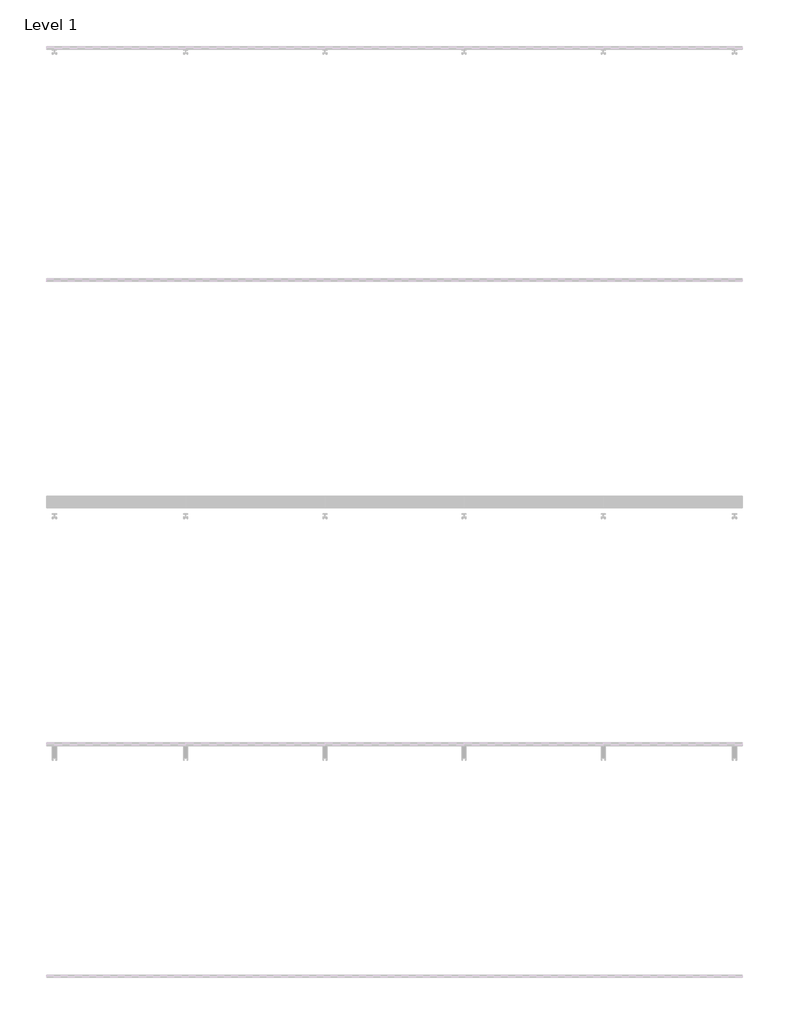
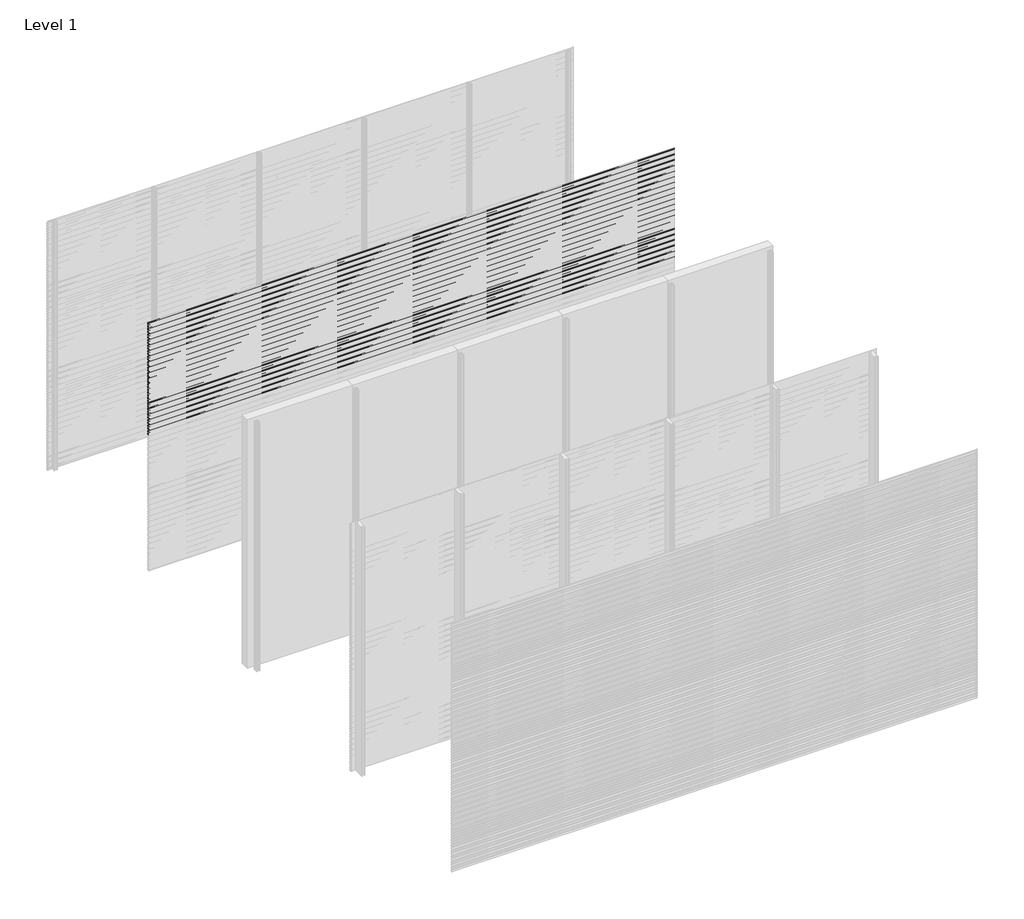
# One storey, part 18 of 77: 72 proxies.
"""IFC4 building model written with IfcOpenShell, lengths in millimetres."""

from ifc_helpers import new_model, si_unit, frame, origin, place, context, project, spatial, polyline, outline, extrude, element, save

model = new_model("IFC4")

# Units and contexts
model_context = context("Model", 3, world=origin())
ifc_project = project(units=[si_unit("LENGTHUNIT", "METRE", prefix="MILLI")], contexts=[model_context])

# Site, building, storey
site = spatial("IfcSite", under=ifc_project)
building = spatial("IfcBuilding", under=site)
storey = spatial("IfcBuildingStorey", under=building, Name="Level 1", Elevation=0.0)

# Proxies
placement = place(None, origin())
element("IfcBuildingElementProxy", 1, Name="Wall Sweeps", at=placement, inside=storey, context=model_context, shape_type="SweptSolid", body=[
    extrude(outline(polyline([(-43978.6, 2972.5359887), (-43998.0, 2983.7366691), (-43998.0, 2997.0), (-43997.0, 2997.0), (-43997.0, 2984.3191057), (-43977.6, 2973.1185105), (-43977.6, 2959.5185105), (-43978.6, 2961.0953129), (-43978.6, 2966.9032062), (-43995.9773817, 2958.8), (-43996.4, 2959.7063078), (-43978.6, 2968.0065841), (-43978.6, 2972.5359887)])), frame((0.0, 0.0, 0.0), z_axis=(1.0, 0.0, 0.0), x_axis=(0.0, 1.0, 0.0)), (0.0, 0.0, 1.0), 6000.0),
])
element("IfcBuildingElementProxy", 2, Name="Wall Sweeps", at=placement, inside=storey, context=model_context, shape_type="SweptSolid", body=[
    extrude(outline(polyline([(-43978.6, 2939.2359887), (-43998.0, 2950.4366691), (-43998.0, 2963.7), (-43997.0, 2963.7), (-43997.0, 2951.0191057), (-43977.6, 2939.8185105), (-43977.6, 2926.2185105), (-43978.6, 2927.7953129), (-43978.6, 2933.6032062), (-43995.9773817, 2925.5), (-43996.4, 2926.4063078), (-43978.6, 2934.7065841), (-43978.6, 2939.2359887)])), frame((0.0, 0.0, 0.0), z_axis=(1.0, 0.0, 0.0), x_axis=(0.0, 1.0, 0.0)), (0.0, 0.0, 1.0), 6000.0),
])
element("IfcBuildingElementProxy", 3, Name="Wall Sweeps", at=placement, inside=storey, context=model_context, shape_type="SweptSolid", body=[
    extrude(outline(polyline([(-43978.6, 2905.9359887), (-43998.0, 2917.1366691), (-43998.0, 2930.4), (-43997.0, 2930.4), (-43997.0, 2917.7191057), (-43977.6, 2906.5185105), (-43977.6, 2892.9185105), (-43978.6, 2894.4953129), (-43978.6, 2900.3032062), (-43995.9773817, 2892.2), (-43996.4, 2893.1063078), (-43978.6, 2901.4065841), (-43978.6, 2905.9359887)])), frame((0.0, 0.0, 0.0), z_axis=(1.0, 0.0, 0.0), x_axis=(0.0, 1.0, 0.0)), (0.0, 0.0, 1.0), 6000.0),
])
element("IfcBuildingElementProxy", 4, Name="Wall Sweeps", at=placement, inside=storey, context=model_context, shape_type="SweptSolid", body=[
    extrude(outline(polyline([(-43978.6, 2872.6359887), (-43998.0, 2883.8366691), (-43998.0, 2897.1), (-43997.0, 2897.1), (-43997.0, 2884.4191057), (-43977.6, 2873.2185105), (-43977.6, 2859.6185105), (-43978.6, 2861.1953129), (-43978.6, 2867.0032062), (-43995.9773817, 2858.9), (-43996.4, 2859.8063078), (-43978.6, 2868.1065841), (-43978.6, 2872.6359887)])), frame((0.0, 0.0, 0.0), z_axis=(1.0, 0.0, 0.0), x_axis=(0.0, 1.0, 0.0)), (0.0, 0.0, 1.0), 6000.0),
])
element("IfcBuildingElementProxy", 5, Name="Wall Sweeps", at=placement, inside=storey, context=model_context, shape_type="SweptSolid", body=[
    extrude(outline(polyline([(-43978.6, 2839.3359887), (-43998.0, 2850.5366691), (-43998.0, 2863.8), (-43997.0, 2863.8), (-43997.0, 2851.1191057), (-43977.6, 2839.9185105), (-43977.6, 2826.3185105), (-43978.6, 2827.8953129), (-43978.6, 2833.7032062), (-43995.9773817, 2825.6), (-43996.4, 2826.5063078), (-43978.6, 2834.8065841), (-43978.6, 2839.3359887)])), frame((0.0, 0.0, 0.0), z_axis=(1.0, 0.0, 0.0), x_axis=(0.0, 1.0, 0.0)), (0.0, 0.0, 1.0), 6000.0),
])
element("IfcBuildingElementProxy", 6, Name="Wall Sweeps", at=placement, inside=storey, context=model_context, shape_type="SweptSolid", body=[
    extrude(outline(polyline([(-43978.6, 2806.0359887), (-43998.0, 2817.2366691), (-43998.0, 2830.5), (-43997.0, 2830.5), (-43997.0, 2817.8191057), (-43977.6, 2806.6185105), (-43977.6, 2793.0185105), (-43978.6, 2794.5953129), (-43978.6, 2800.4032062), (-43995.9773817, 2792.3), (-43996.4, 2793.2063078), (-43978.6, 2801.5065841), (-43978.6, 2806.0359887)])), frame((0.0, 0.0, 0.0), z_axis=(1.0, 0.0, 0.0), x_axis=(0.0, 1.0, 0.0)), (0.0, 0.0, 1.0), 6000.0),
])
element("IfcBuildingElementProxy", 7, Name="Wall Sweeps", at=placement, inside=storey, context=model_context, shape_type="SweptSolid", body=[
    extrude(outline(polyline([(-43978.6, 2772.7359887), (-43998.0, 2783.9366691), (-43998.0, 2797.2), (-43997.0, 2797.2), (-43997.0, 2784.5191057), (-43977.6, 2773.3185105), (-43977.6, 2759.7185105), (-43978.6, 2761.2953129), (-43978.6, 2767.1032062), (-43995.9773817, 2759.0), (-43996.4, 2759.9063078), (-43978.6, 2768.2065841), (-43978.6, 2772.7359887)])), frame((0.0, 0.0, 0.0), z_axis=(1.0, 0.0, 0.0), x_axis=(0.0, 1.0, 0.0)), (0.0, 0.0, 1.0), 6000.0),
])
element("IfcBuildingElementProxy", 8, Name="Wall Sweeps", at=placement, inside=storey, context=model_context, shape_type="SweptSolid", body=[
    extrude(outline(polyline([(-43978.6, 2739.4359887), (-43998.0, 2750.6366691), (-43998.0, 2763.9), (-43997.0, 2763.9), (-43997.0, 2751.2191057), (-43977.6, 2740.0185105), (-43977.6, 2726.4185105), (-43978.6, 2727.9953129), (-43978.6, 2733.8032062), (-43995.9773817, 2725.7), (-43996.4, 2726.6063078), (-43978.6, 2734.9065841), (-43978.6, 2739.4359887)])), frame((0.0, 0.0, 0.0), z_axis=(1.0, 0.0, 0.0), x_axis=(0.0, 1.0, 0.0)), (0.0, 0.0, 1.0), 6000.0),
])
element("IfcBuildingElementProxy", 9, Name="Wall Sweeps", at=placement, inside=storey, context=model_context, shape_type="SweptSolid", body=[
    extrude(outline(polyline([(-43978.6, 2706.1359887), (-43998.0, 2717.3366691), (-43998.0, 2730.6), (-43997.0, 2730.6), (-43997.0, 2717.9191057), (-43977.6, 2706.7185105), (-43977.6, 2693.1185105), (-43978.6, 2694.6953129), (-43978.6, 2700.5032062), (-43995.9773817, 2692.4), (-43996.4, 2693.3063078), (-43978.6, 2701.6065841), (-43978.6, 2706.1359887)])), frame((0.0, 0.0, 0.0), z_axis=(1.0, 0.0, 0.0), x_axis=(0.0, 1.0, 0.0)), (0.0, 0.0, 1.0), 6000.0),
])
element("IfcBuildingElementProxy", 10, Name="Wall Sweeps", at=placement, inside=storey, context=model_context, shape_type="SweptSolid", body=[
    extrude(outline(polyline([(-43978.6, 2672.8359887), (-43998.0, 2684.0366691), (-43998.0, 2697.3), (-43997.0, 2697.3), (-43997.0, 2684.6191057), (-43977.6, 2673.4185105), (-43977.6, 2659.8185105), (-43978.6, 2661.3953129), (-43978.6, 2667.2032062), (-43995.9773817, 2659.1), (-43996.4, 2660.0063078), (-43978.6, 2668.3065841), (-43978.6, 2672.8359887)])), frame((0.0, 0.0, 0.0), z_axis=(1.0, 0.0, 0.0), x_axis=(0.0, 1.0, 0.0)), (0.0, 0.0, 1.0), 6000.0),
])
element("IfcBuildingElementProxy", 11, Name="Wall Sweeps", at=placement, inside=storey, context=model_context, shape_type="SweptSolid", body=[
    extrude(outline(polyline([(-43978.6, 2639.5359887), (-43998.0, 2650.7366691), (-43998.0, 2664.0), (-43997.0, 2664.0), (-43997.0, 2651.3191057), (-43977.6, 2640.1185105), (-43977.6, 2626.5185105), (-43978.6, 2628.0953129), (-43978.6, 2633.9032062), (-43995.9773817, 2625.8), (-43996.4, 2626.7063078), (-43978.6, 2635.0065841), (-43978.6, 2639.5359887)])), frame((0.0, 0.0, 0.0), z_axis=(1.0, 0.0, 0.0), x_axis=(0.0, 1.0, 0.0)), (0.0, 0.0, 1.0), 6000.0),
])
element("IfcBuildingElementProxy", 12, Name="Wall Sweeps", at=placement, inside=storey, context=model_context, shape_type="SweptSolid", body=[
    extrude(outline(polyline([(-43978.6, 2606.2359887), (-43998.0, 2617.4366691), (-43998.0, 2630.7), (-43997.0, 2630.7), (-43997.0, 2618.0191057), (-43977.6, 2606.8185105), (-43977.6, 2593.2185105), (-43978.6, 2594.7953129), (-43978.6, 2600.6032062), (-43995.9773817, 2592.5), (-43996.4, 2593.4063078), (-43978.6, 2601.7065841), (-43978.6, 2606.2359887)])), frame((0.0, 0.0, 0.0), z_axis=(1.0, 0.0, 0.0), x_axis=(0.0, 1.0, 0.0)), (0.0, 0.0, 1.0), 6000.0),
])
element("IfcBuildingElementProxy", 13, Name="Wall Sweeps", at=placement, inside=storey, context=model_context, shape_type="SweptSolid", body=[
    extrude(outline(polyline([(-43978.6, 2572.9359887), (-43998.0, 2584.1366691), (-43998.0, 2597.4), (-43997.0, 2597.4), (-43997.0, 2584.7191057), (-43977.6, 2573.5185105), (-43977.6, 2559.9185105), (-43978.6, 2561.4953129), (-43978.6, 2567.3032062), (-43995.9773817, 2559.2), (-43996.4, 2560.1063078), (-43978.6, 2568.4065841), (-43978.6, 2572.9359887)])), frame((0.0, 0.0, 0.0), z_axis=(1.0, 0.0, 0.0), x_axis=(0.0, 1.0, 0.0)), (0.0, 0.0, 1.0), 6000.0),
])
element("IfcBuildingElementProxy", 14, Name="Wall Sweeps", at=placement, inside=storey, context=model_context, shape_type="SweptSolid", body=[
    extrude(outline(polyline([(-43978.6, 2539.6359887), (-43998.0, 2550.8366691), (-43998.0, 2564.1), (-43997.0, 2564.1), (-43997.0, 2551.4191057), (-43977.6, 2540.2185105), (-43977.6, 2526.6185105), (-43978.6, 2528.1953129), (-43978.6, 2534.0032062), (-43995.9773817, 2525.9), (-43996.4, 2526.8063078), (-43978.6, 2535.1065841), (-43978.6, 2539.6359887)])), frame((0.0, 0.0, 0.0), z_axis=(1.0, 0.0, 0.0), x_axis=(0.0, 1.0, 0.0)), (0.0, 0.0, 1.0), 6000.0),
])
element("IfcBuildingElementProxy", 15, Name="Wall Sweeps", at=placement, inside=storey, context=model_context, shape_type="SweptSolid", body=[
    extrude(outline(polyline([(-43978.6, 2506.3359887), (-43998.0, 2517.5366691), (-43998.0, 2530.8), (-43997.0, 2530.8), (-43997.0, 2518.1191057), (-43977.6, 2506.9185105), (-43977.6, 2493.3185105), (-43978.6, 2494.8953129), (-43978.6, 2500.7032062), (-43995.9773817, 2492.6), (-43996.4, 2493.5063078), (-43978.6, 2501.8065841), (-43978.6, 2506.3359887)])), frame((0.0, 0.0, 0.0), z_axis=(1.0, 0.0, 0.0), x_axis=(0.0, 1.0, 0.0)), (0.0, 0.0, 1.0), 6000.0),
])
element("IfcBuildingElementProxy", 16, Name="Wall Sweeps", at=placement, inside=storey, context=model_context, shape_type="SweptSolid", body=[
    extrude(outline(polyline([(-43978.6, 2473.0359887), (-43998.0, 2484.2366691), (-43998.0, 2497.5), (-43997.0, 2497.5), (-43997.0, 2484.8191057), (-43977.6, 2473.6185105), (-43977.6, 2460.0185105), (-43978.6, 2461.5953129), (-43978.6, 2467.4032062), (-43995.9773817, 2459.3), (-43996.4, 2460.2063078), (-43978.6, 2468.5065841), (-43978.6, 2473.0359887)])), frame((0.0, 0.0, 0.0), z_axis=(1.0, 0.0, 0.0), x_axis=(0.0, 1.0, 0.0)), (0.0, 0.0, 1.0), 6000.0),
])
element("IfcBuildingElementProxy", 17, Name="Wall Sweeps", at=placement, inside=storey, context=model_context, shape_type="SweptSolid", body=[
    extrude(outline(polyline([(-43978.6, 2439.7359887), (-43998.0, 2450.9366691), (-43998.0, 2464.2), (-43997.0, 2464.2), (-43997.0, 2451.5191057), (-43977.6, 2440.3185105), (-43977.6, 2426.7185105), (-43978.6, 2428.2953129), (-43978.6, 2434.1032062), (-43995.9773817, 2426.0), (-43996.4, 2426.9063078), (-43978.6, 2435.2065841), (-43978.6, 2439.7359887)])), frame((0.0, 0.0, 0.0), z_axis=(1.0, 0.0, 0.0), x_axis=(0.0, 1.0, 0.0)), (0.0, 0.0, 1.0), 6000.0),
])
element("IfcBuildingElementProxy", 18, Name="Wall Sweeps", at=placement, inside=storey, context=model_context, shape_type="SweptSolid", body=[
    extrude(outline(polyline([(-43978.6, 2406.4359887), (-43998.0, 2417.6366691), (-43998.0, 2430.9), (-43997.0, 2430.9), (-43997.0, 2418.2191057), (-43977.6, 2407.0185105), (-43977.6, 2393.4185105), (-43978.6, 2394.9953129), (-43978.6, 2400.8032062), (-43995.9773817, 2392.7), (-43996.4, 2393.6063078), (-43978.6, 2401.9065841), (-43978.6, 2406.4359887)])), frame((0.0, 0.0, 0.0), z_axis=(1.0, 0.0, 0.0), x_axis=(0.0, 1.0, 0.0)), (0.0, 0.0, 1.0), 6000.0),
])
element("IfcBuildingElementProxy", 19, Name="Wall Sweeps", at=placement, inside=storey, context=model_context, shape_type="SweptSolid", body=[
    extrude(outline(polyline([(-43978.6, 2373.1359887), (-43998.0, 2384.3366691), (-43998.0, 2397.6), (-43997.0, 2397.6), (-43997.0, 2384.9191057), (-43977.6, 2373.7185105), (-43977.6, 2360.1185105), (-43978.6, 2361.6953129), (-43978.6, 2367.5032062), (-43995.9773817, 2359.4), (-43996.4, 2360.3063078), (-43978.6, 2368.6065841), (-43978.6, 2373.1359887)])), frame((0.0, 0.0, 0.0), z_axis=(1.0, 0.0, 0.0), x_axis=(0.0, 1.0, 0.0)), (0.0, 0.0, 1.0), 6000.0),
])
element("IfcBuildingElementProxy", 20, Name="Wall Sweeps", at=placement, inside=storey, context=model_context, shape_type="SweptSolid", body=[
    extrude(outline(polyline([(-43978.6, 2339.8359887), (-43998.0, 2351.0366691), (-43998.0, 2364.3), (-43997.0, 2364.3), (-43997.0, 2351.6191057), (-43977.6, 2340.4185105), (-43977.6, 2326.8185105), (-43978.6, 2328.3953129), (-43978.6, 2334.2032062), (-43995.9773817, 2326.1), (-43996.4, 2327.0063078), (-43978.6, 2335.3065841), (-43978.6, 2339.8359887)])), frame((0.0, 0.0, 0.0), z_axis=(1.0, 0.0, 0.0), x_axis=(0.0, 1.0, 0.0)), (0.0, 0.0, 1.0), 6000.0),
])
element("IfcBuildingElementProxy", 21, Name="Wall Sweeps", at=placement, inside=storey, context=model_context, shape_type="SweptSolid", body=[
    extrude(outline(polyline([(-43978.6, 2306.5359887), (-43998.0, 2317.7366691), (-43998.0, 2331.0), (-43997.0, 2331.0), (-43997.0, 2318.3191057), (-43977.6, 2307.1185105), (-43977.6, 2293.5185105), (-43978.6, 2295.0953129), (-43978.6, 2300.9032062), (-43995.9773817, 2292.8), (-43996.4, 2293.7063078), (-43978.6, 2302.0065841), (-43978.6, 2306.5359887)])), frame((0.0, 0.0, 0.0), z_axis=(1.0, 0.0, 0.0), x_axis=(0.0, 1.0, 0.0)), (0.0, 0.0, 1.0), 6000.0),
])
element("IfcBuildingElementProxy", 22, Name="Wall Sweeps", at=placement, inside=storey, context=model_context, shape_type="SweptSolid", body=[
    extrude(outline(polyline([(-43978.6, 2273.2359887), (-43998.0, 2284.4366691), (-43998.0, 2297.7), (-43997.0, 2297.7), (-43997.0, 2285.0191057), (-43977.6, 2273.8185105), (-43977.6, 2260.2185105), (-43978.6, 2261.7953129), (-43978.6, 2267.6032062), (-43995.9773817, 2259.5), (-43996.4, 2260.4063078), (-43978.6, 2268.7065841), (-43978.6, 2273.2359887)])), frame((0.0, 0.0, 0.0), z_axis=(1.0, 0.0, 0.0), x_axis=(0.0, 1.0, 0.0)), (0.0, 0.0, 1.0), 6000.0),
])
element("IfcBuildingElementProxy", 23, Name="Wall Sweeps", at=placement, inside=storey, context=model_context, shape_type="SweptSolid", body=[
    extrude(outline(polyline([(-43978.6, 2239.9359887), (-43998.0, 2251.1366691), (-43998.0, 2264.4), (-43997.0, 2264.4), (-43997.0, 2251.7191057), (-43977.6, 2240.5185105), (-43977.6, 2226.9185105), (-43978.6, 2228.4953129), (-43978.6, 2234.3032062), (-43995.9773817, 2226.2), (-43996.4, 2227.1063078), (-43978.6, 2235.4065841), (-43978.6, 2239.9359887)])), frame((0.0, 0.0, 0.0), z_axis=(1.0, 0.0, 0.0), x_axis=(0.0, 1.0, 0.0)), (0.0, 0.0, 1.0), 6000.0),
])
element("IfcBuildingElementProxy", 24, Name="Wall Sweeps", at=placement, inside=storey, context=model_context, shape_type="SweptSolid", body=[
    extrude(outline(polyline([(-43978.6, 2206.6359887), (-43998.0, 2217.8366691), (-43998.0, 2231.1), (-43997.0, 2231.1), (-43997.0, 2218.4191057), (-43977.6, 2207.2185105), (-43977.6, 2193.6185105), (-43978.6, 2195.1953129), (-43978.6, 2201.0032062), (-43995.9773817, 2192.9), (-43996.4, 2193.8063078), (-43978.6, 2202.1065841), (-43978.6, 2206.6359887)])), frame((0.0, 0.0, 0.0), z_axis=(1.0, 0.0, 0.0), x_axis=(0.0, 1.0, 0.0)), (0.0, 0.0, 1.0), 6000.0),
])
element("IfcBuildingElementProxy", 25, Name="Wall Sweeps", at=placement, inside=storey, context=model_context, shape_type="SweptSolid", body=[
    extrude(outline(polyline([(-43978.6, 2173.3359887), (-43998.0, 2184.5366691), (-43998.0, 2197.8), (-43997.0, 2197.8), (-43997.0, 2185.1191057), (-43977.6, 2173.9185105), (-43977.6, 2160.3185105), (-43978.6, 2161.8953129), (-43978.6, 2167.7032062), (-43995.9773817, 2159.6), (-43996.4, 2160.5063078), (-43978.6, 2168.8065841), (-43978.6, 2173.3359887)])), frame((0.0, 0.0, 0.0), z_axis=(1.0, 0.0, 0.0), x_axis=(0.0, 1.0, 0.0)), (0.0, 0.0, 1.0), 6000.0),
])
element("IfcBuildingElementProxy", 26, Name="Wall Sweeps", at=placement, inside=storey, context=model_context, shape_type="SweptSolid", body=[
    extrude(outline(polyline([(-43978.6, 2140.0359887), (-43998.0, 2151.2366691), (-43998.0, 2164.5), (-43997.0, 2164.5), (-43997.0, 2151.8191057), (-43977.6, 2140.6185105), (-43977.6, 2127.0185105), (-43978.6, 2128.5953129), (-43978.6, 2134.4032062), (-43995.9773817, 2126.3), (-43996.4, 2127.2063078), (-43978.6, 2135.5065841), (-43978.6, 2140.0359887)])), frame((0.0, 0.0, 0.0), z_axis=(1.0, 0.0, 0.0), x_axis=(0.0, 1.0, 0.0)), (0.0, 0.0, 1.0), 6000.0),
])
element("IfcBuildingElementProxy", 27, Name="Wall Sweeps", at=placement, inside=storey, context=model_context, shape_type="SweptSolid", body=[
    extrude(outline(polyline([(-43978.6, 2106.7359887), (-43998.0, 2117.9366691), (-43998.0, 2131.2), (-43997.0, 2131.2), (-43997.0, 2118.5191057), (-43977.6, 2107.3185105), (-43977.6, 2093.7185105), (-43978.6, 2095.2953129), (-43978.6, 2101.1032062), (-43995.9773817, 2093.0), (-43996.4, 2093.9063078), (-43978.6, 2102.2065841), (-43978.6, 2106.7359887)])), frame((0.0, 0.0, 0.0), z_axis=(1.0, 0.0, 0.0), x_axis=(0.0, 1.0, 0.0)), (0.0, 0.0, 1.0), 6000.0),
])
element("IfcBuildingElementProxy", 28, Name="Wall Sweeps", at=placement, inside=storey, context=model_context, shape_type="SweptSolid", body=[
    extrude(outline(polyline([(-43978.6, 2073.4359887), (-43998.0, 2084.6366691), (-43998.0, 2097.9), (-43997.0, 2097.9), (-43997.0, 2085.2191057), (-43977.6, 2074.0185105), (-43977.6, 2060.4185105), (-43978.6, 2061.9953129), (-43978.6, 2067.8032062), (-43995.9773817, 2059.7), (-43996.4, 2060.6063078), (-43978.6, 2068.9065841), (-43978.6, 2073.4359887)])), frame((0.0, 0.0, 0.0), z_axis=(1.0, 0.0, 0.0), x_axis=(0.0, 1.0, 0.0)), (0.0, 0.0, 1.0), 6000.0),
])
element("IfcBuildingElementProxy", 29, Name="Wall Sweeps", at=placement, inside=storey, context=model_context, shape_type="SweptSolid", body=[
    extrude(outline(polyline([(-43978.6, 2040.1359887), (-43998.0, 2051.3366691), (-43998.0, 2064.6), (-43997.0, 2064.6), (-43997.0, 2051.9191057), (-43977.6, 2040.7185105), (-43977.6, 2027.1185105), (-43978.6, 2028.6953129), (-43978.6, 2034.5032062), (-43995.9773817, 2026.4), (-43996.4, 2027.3063078), (-43978.6, 2035.6065841), (-43978.6, 2040.1359887)])), frame((0.0, 0.0, 0.0), z_axis=(1.0, 0.0, 0.0), x_axis=(0.0, 1.0, 0.0)), (0.0, 0.0, 1.0), 6000.0),
])
element("IfcBuildingElementProxy", 30, Name="Wall Sweeps", at=placement, inside=storey, context=model_context, shape_type="SweptSolid", body=[
    extrude(outline(polyline([(-43978.6, 2006.8359887), (-43998.0, 2018.0366691), (-43998.0, 2031.3), (-43997.0, 2031.3), (-43997.0, 2018.6191057), (-43977.6, 2007.4185105), (-43977.6, 1993.8185105), (-43978.6, 1995.3953129), (-43978.6, 2001.2032062), (-43995.9773817, 1993.1), (-43996.4, 1994.0063078), (-43978.6, 2002.3065841), (-43978.6, 2006.8359887)])), frame((0.0, 0.0, 0.0), z_axis=(1.0, 0.0, 0.0), x_axis=(0.0, 1.0, 0.0)), (0.0, 0.0, 1.0), 6000.0),
])
element("IfcBuildingElementProxy", 31, Name="Wall Sweeps", at=placement, inside=storey, context=model_context, shape_type="SweptSolid", body=[
    extrude(outline(polyline([(-43978.6, 1973.5359887), (-43998.0, 1984.7366691), (-43998.0, 1998.0), (-43997.0, 1998.0), (-43997.0, 1985.3191057), (-43977.6, 1974.1185105), (-43977.6, 1960.5185105), (-43978.6, 1962.0953129), (-43978.6, 1967.9032062), (-43995.9773817, 1959.8), (-43996.4, 1960.7063078), (-43978.6, 1969.0065841), (-43978.6, 1973.5359887)])), frame((0.0, 0.0, 0.0), z_axis=(1.0, 0.0, 0.0), x_axis=(0.0, 1.0, 0.0)), (0.0, 0.0, 1.0), 6000.0),
])
element("IfcBuildingElementProxy", 32, Name="Wall Sweeps", at=placement, inside=storey, context=model_context, shape_type="SweptSolid", body=[
    extrude(outline(polyline([(-43978.6, 1940.2359887), (-43998.0, 1951.4366691), (-43998.0, 1964.7), (-43997.0, 1964.7), (-43997.0, 1952.0191057), (-43977.6, 1940.8185105), (-43977.6, 1927.2185105), (-43978.6, 1928.7953129), (-43978.6, 1934.6032062), (-43995.9773817, 1926.5), (-43996.4, 1927.4063078), (-43978.6, 1935.7065841), (-43978.6, 1940.2359887)])), frame((0.0, 0.0, 0.0), z_axis=(1.0, 0.0, 0.0), x_axis=(0.0, 1.0, 0.0)), (0.0, 0.0, 1.0), 6000.0),
])
element("IfcBuildingElementProxy", 33, Name="Wall Sweeps", at=placement, inside=storey, context=model_context, shape_type="SweptSolid", body=[
    extrude(outline(polyline([(-43978.6, 1906.9359887), (-43998.0, 1918.1366691), (-43998.0, 1931.4), (-43997.0, 1931.4), (-43997.0, 1918.7191057), (-43977.6, 1907.5185105), (-43977.6, 1893.9185105), (-43978.6, 1895.4953129), (-43978.6, 1901.3032062), (-43995.9773817, 1893.2), (-43996.4, 1894.1063078), (-43978.6, 1902.4065841), (-43978.6, 1906.9359887)])), frame((0.0, 0.0, 0.0), z_axis=(1.0, 0.0, 0.0), x_axis=(0.0, 1.0, 0.0)), (0.0, 0.0, 1.0), 6000.0),
])
element("IfcBuildingElementProxy", 34, Name="Wall Sweeps", at=placement, inside=storey, context=model_context, shape_type="SweptSolid", body=[
    extrude(outline(polyline([(-43978.6, 1873.6359887), (-43998.0, 1884.8366691), (-43998.0, 1898.1), (-43997.0, 1898.1), (-43997.0, 1885.4191057), (-43977.6, 1874.2185105), (-43977.6, 1860.6185105), (-43978.6, 1862.1953129), (-43978.6, 1868.0032062), (-43995.9773817, 1859.9), (-43996.4, 1860.8063078), (-43978.6, 1869.1065841), (-43978.6, 1873.6359887)])), frame((0.0, 0.0, 0.0), z_axis=(1.0, 0.0, 0.0), x_axis=(0.0, 1.0, 0.0)), (0.0, 0.0, 1.0), 6000.0),
])
element("IfcBuildingElementProxy", 35, Name="Wall Sweeps", at=placement, inside=storey, context=model_context, shape_type="SweptSolid", body=[
    extrude(outline(polyline([(-43978.6, 1840.3359887), (-43998.0, 1851.5366691), (-43998.0, 1864.8), (-43997.0, 1864.8), (-43997.0, 1852.1191057), (-43977.6, 1840.9185105), (-43977.6, 1827.3185105), (-43978.6, 1828.8953129), (-43978.6, 1834.7032062), (-43995.9773817, 1826.6), (-43996.4, 1827.5063078), (-43978.6, 1835.8065841), (-43978.6, 1840.3359887)])), frame((0.0, 0.0, 0.0), z_axis=(1.0, 0.0, 0.0), x_axis=(0.0, 1.0, 0.0)), (0.0, 0.0, 1.0), 6000.0),
])
element("IfcBuildingElementProxy", 36, Name="Wall Sweeps", at=placement, inside=storey, context=model_context, shape_type="SweptSolid", body=[
    extrude(outline(polyline([(-43978.6, 1807.0359887), (-43998.0, 1818.2366691), (-43998.0, 1831.5), (-43997.0, 1831.5), (-43997.0, 1818.8191057), (-43977.6, 1807.6185105), (-43977.6, 1794.0185105), (-43978.6, 1795.5953129), (-43978.6, 1801.4032062), (-43995.9773817, 1793.3), (-43996.4, 1794.2063078), (-43978.6, 1802.5065841), (-43978.6, 1807.0359887)])), frame((0.0, 0.0, 0.0), z_axis=(1.0, 0.0, 0.0), x_axis=(0.0, 1.0, 0.0)), (0.0, 0.0, 1.0), 6000.0),
])
element("IfcBuildingElementProxy", 37, Name="Wall Sweeps", at=placement, inside=storey, context=model_context, shape_type="SweptSolid", body=[
    extrude(outline(polyline([(-43978.6, 1773.7359887), (-43998.0, 1784.9366691), (-43998.0, 1798.2), (-43997.0, 1798.2), (-43997.0, 1785.5191057), (-43977.6, 1774.3185105), (-43977.6, 1760.7185105), (-43978.6, 1762.2953129), (-43978.6, 1768.1032062), (-43995.9773817, 1760.0), (-43996.4, 1760.9063078), (-43978.6, 1769.2065841), (-43978.6, 1773.7359887)])), frame((0.0, 0.0, 0.0), z_axis=(1.0, 0.0, 0.0), x_axis=(0.0, 1.0, 0.0)), (0.0, 0.0, 1.0), 6000.0),
])
element("IfcBuildingElementProxy", 38, Name="Wall Sweeps", at=placement, inside=storey, context=model_context, shape_type="SweptSolid", body=[
    extrude(outline(polyline([(-43978.6, 1740.4359887), (-43998.0, 1751.6366691), (-43998.0, 1764.9), (-43997.0, 1764.9), (-43997.0, 1752.2191057), (-43977.6, 1741.0185105), (-43977.6, 1727.4185105), (-43978.6, 1728.9953129), (-43978.6, 1734.8032062), (-43995.9773817, 1726.7), (-43996.4, 1727.6063078), (-43978.6, 1735.9065841), (-43978.6, 1740.4359887)])), frame((0.0, 0.0, 0.0), z_axis=(1.0, 0.0, 0.0), x_axis=(0.0, 1.0, 0.0)), (0.0, 0.0, 1.0), 6000.0),
])
element("IfcBuildingElementProxy", 39, Name="Wall Sweeps", at=placement, inside=storey, context=model_context, shape_type="SweptSolid", body=[
    extrude(outline(polyline([(-43978.6, 1707.1359887), (-43998.0, 1718.3366691), (-43998.0, 1731.6), (-43997.0, 1731.6), (-43997.0, 1718.9191057), (-43977.6, 1707.7185105), (-43977.6, 1694.1185105), (-43978.6, 1695.6953129), (-43978.6, 1701.5032062), (-43995.9773817, 1693.4), (-43996.4, 1694.3063078), (-43978.6, 1702.6065841), (-43978.6, 1707.1359887)])), frame((0.0, 0.0, 0.0), z_axis=(1.0, 0.0, 0.0), x_axis=(0.0, 1.0, 0.0)), (0.0, 0.0, 1.0), 6000.0),
])
element("IfcBuildingElementProxy", 40, Name="Wall Sweeps", at=placement, inside=storey, context=model_context, shape_type="SweptSolid", body=[
    extrude(outline(polyline([(-43978.6, 1673.8359887), (-43998.0, 1685.0366691), (-43998.0, 1698.3), (-43997.0, 1698.3), (-43997.0, 1685.6191057), (-43977.6, 1674.4185105), (-43977.6, 1660.8185105), (-43978.6, 1662.3953129), (-43978.6, 1668.2032062), (-43995.9773817, 1660.1), (-43996.4, 1661.0063078), (-43978.6, 1669.3065841), (-43978.6, 1673.8359887)])), frame((0.0, 0.0, 0.0), z_axis=(1.0, 0.0, 0.0), x_axis=(0.0, 1.0, 0.0)), (0.0, 0.0, 1.0), 6000.0),
])
element("IfcBuildingElementProxy", 41, Name="Wall Sweeps", at=placement, inside=storey, context=model_context, shape_type="SweptSolid", body=[
    extrude(outline(polyline([(-43978.6, 1640.5359887), (-43998.0, 1651.7366691), (-43998.0, 1665.0), (-43997.0, 1665.0), (-43997.0, 1652.3191057), (-43977.6, 1641.1185105), (-43977.6, 1627.5185105), (-43978.6, 1629.0953129), (-43978.6, 1634.9032062), (-43995.9773817, 1626.8), (-43996.4, 1627.7063078), (-43978.6, 1636.0065841), (-43978.6, 1640.5359887)])), frame((0.0, 0.0, 0.0), z_axis=(1.0, 0.0, 0.0), x_axis=(0.0, 1.0, 0.0)), (0.0, 0.0, 1.0), 6000.0),
])
element("IfcBuildingElementProxy", 42, Name="Wall Sweeps", at=placement, inside=storey, context=model_context, shape_type="SweptSolid", body=[
    extrude(outline(polyline([(-47978.6, 1007.8359887), (-47998.0, 1019.0366691), (-47998.0, 1032.3), (-47997.0, 1032.3), (-47997.0, 1019.6191057), (-47977.6, 1008.4185105), (-47977.6, 994.8185105), (-47978.6, 996.3953129), (-47978.6, 1002.2032062), (-47995.9773817, 994.1), (-47996.4, 995.0063078), (-47978.6, 1003.3065841), (-47978.6, 1007.8359887)])), frame((4800.0, 0.0, 0.0), z_axis=(1.0, 0.0, 0.0), x_axis=(0.0, 1.0, 0.0)), (0.0, 0.0, 1.0), 1200.0),
])
element("IfcBuildingElementProxy", 43, Name="Wall Sweeps", at=placement, inside=storey, context=model_context, shape_type="SweptSolid", body=[
    extrude(outline(polyline([(-47978.6, 974.5359887), (-47998.0, 985.7366691), (-47998.0, 999.0), (-47997.0, 999.0), (-47997.0, 986.3191057), (-47977.6, 975.1185105), (-47977.6, 961.5185105), (-47978.6, 963.0953129), (-47978.6, 968.9032062), (-47995.9773817, 960.8), (-47996.4, 961.7063078), (-47978.6, 970.0065841), (-47978.6, 974.5359887)])), frame((4800.0, 0.0, 0.0), z_axis=(1.0, 0.0, 0.0), x_axis=(0.0, 1.0, 0.0)), (0.0, 0.0, 1.0), 1200.0),
])
element("IfcBuildingElementProxy", 44, Name="Wall Sweeps", at=placement, inside=storey, context=model_context, shape_type="SweptSolid", body=[
    extrude(outline(polyline([(-47978.6, 941.2359887), (-47998.0, 952.4366691), (-47998.0, 965.7), (-47997.0, 965.7), (-47997.0, 953.0191057), (-47977.6, 941.8185105), (-47977.6, 928.2185105), (-47978.6, 929.7953129), (-47978.6, 935.6032062), (-47995.9773817, 927.5), (-47996.4, 928.4063078), (-47978.6, 936.7065841), (-47978.6, 941.2359887)])), frame((4800.0, 0.0, 0.0), z_axis=(1.0, 0.0, 0.0), x_axis=(0.0, 1.0, 0.0)), (0.0, 0.0, 1.0), 1200.0),
])
element("IfcBuildingElementProxy", 45, Name="Wall Sweeps", at=placement, inside=storey, context=model_context, shape_type="SweptSolid", body=[
    extrude(outline(polyline([(-47978.6, 907.9359887), (-47998.0, 919.1366691), (-47998.0, 932.4), (-47997.0, 932.4), (-47997.0, 919.7191057), (-47977.6, 908.5185105), (-47977.6, 894.9185105), (-47978.6, 896.4953129), (-47978.6, 902.3032062), (-47995.9773817, 894.2), (-47996.4, 895.1063078), (-47978.6, 903.4065841), (-47978.6, 907.9359887)])), frame((4800.0, 0.0, 0.0), z_axis=(1.0, 0.0, 0.0), x_axis=(0.0, 1.0, 0.0)), (0.0, 0.0, 1.0), 1200.0),
])
element("IfcBuildingElementProxy", 46, Name="Wall Sweeps", at=placement, inside=storey, context=model_context, shape_type="SweptSolid", body=[
    extrude(outline(polyline([(-47978.6, 874.6359887), (-47998.0, 885.8366691), (-47998.0, 899.1), (-47997.0, 899.1), (-47997.0, 886.4191057), (-47977.6, 875.2185105), (-47977.6, 861.6185105), (-47978.6, 863.1953129), (-47978.6, 869.0032062), (-47995.9773817, 860.9), (-47996.4, 861.8063078), (-47978.6, 870.1065841), (-47978.6, 874.6359887)])), frame((4800.0, 0.0, 0.0), z_axis=(1.0, 0.0, 0.0), x_axis=(0.0, 1.0, 0.0)), (0.0, 0.0, 1.0), 1200.0),
])
element("IfcBuildingElementProxy", 47, Name="Wall Sweeps", at=placement, inside=storey, context=model_context, shape_type="SweptSolid", body=[
    extrude(outline(polyline([(-47978.6, 841.3359887), (-47998.0, 852.5366691), (-47998.0, 865.8), (-47997.0, 865.8), (-47997.0, 853.1191057), (-47977.6, 841.9185105), (-47977.6, 828.3185105), (-47978.6, 829.8953129), (-47978.6, 835.7032062), (-47995.9773817, 827.6), (-47996.4, 828.5063078), (-47978.6, 836.8065841), (-47978.6, 841.3359887)])), frame((4800.0, 0.0, 0.0), z_axis=(1.0, 0.0, 0.0), x_axis=(0.0, 1.0, 0.0)), (0.0, 0.0, 1.0), 1200.0),
])
element("IfcBuildingElementProxy", 48, Name="Wall Sweeps", at=placement, inside=storey, context=model_context, shape_type="SweptSolid", body=[
    extrude(outline(polyline([(-47978.6, 808.0359887), (-47998.0, 819.2366691), (-47998.0, 832.5), (-47997.0, 832.5), (-47997.0, 819.8191057), (-47977.6, 808.6185105), (-47977.6, 795.0185105), (-47978.6, 796.5953129), (-47978.6, 802.4032062), (-47995.9773817, 794.3), (-47996.4, 795.2063078), (-47978.6, 803.5065841), (-47978.6, 808.0359887)])), frame((4800.0, 0.0, 0.0), z_axis=(1.0, 0.0, 0.0), x_axis=(0.0, 1.0, 0.0)), (0.0, 0.0, 1.0), 1200.0),
])
element("IfcBuildingElementProxy", 49, Name="Wall Sweeps", at=placement, inside=storey, context=model_context, shape_type="SweptSolid", body=[
    extrude(outline(polyline([(-47978.6, 774.7359887), (-47998.0, 785.9366691), (-47998.0, 799.2), (-47997.0, 799.2), (-47997.0, 786.5191057), (-47977.6, 775.3185105), (-47977.6, 761.7185105), (-47978.6, 763.2953129), (-47978.6, 769.1032062), (-47995.9773817, 761.0), (-47996.4, 761.9063078), (-47978.6, 770.2065841), (-47978.6, 774.7359887)])), frame((4800.0, 0.0, 0.0), z_axis=(1.0, 0.0, 0.0), x_axis=(0.0, 1.0, 0.0)), (0.0, 0.0, 1.0), 1200.0),
])
element("IfcBuildingElementProxy", 50, Name="Wall Sweeps", at=placement, inside=storey, context=model_context, shape_type="SweptSolid", body=[
    extrude(outline(polyline([(-47978.6, 741.4359887), (-47998.0, 752.6366691), (-47998.0, 765.9), (-47997.0, 765.9), (-47997.0, 753.2191057), (-47977.6, 742.0185105), (-47977.6, 728.4185105), (-47978.6, 729.9953129), (-47978.6, 735.8032062), (-47995.9773817, 727.7), (-47996.4, 728.6063078), (-47978.6, 736.9065841), (-47978.6, 741.4359887)])), frame((4800.0, 0.0, 0.0), z_axis=(1.0, 0.0, 0.0), x_axis=(0.0, 1.0, 0.0)), (0.0, 0.0, 1.0), 1200.0),
])
element("IfcBuildingElementProxy", 51, Name="Wall Sweeps", at=placement, inside=storey, context=model_context, shape_type="SweptSolid", body=[
    extrude(outline(polyline([(-47978.6, 708.1359887), (-47998.0, 719.3366691), (-47998.0, 732.6), (-47997.0, 732.6), (-47997.0, 719.9191057), (-47977.6, 708.7185105), (-47977.6, 695.1185105), (-47978.6, 696.6953129), (-47978.6, 702.5032062), (-47995.9773817, 694.4), (-47996.4, 695.3063078), (-47978.6, 703.6065841), (-47978.6, 708.1359887)])), frame((4800.0, 0.0, 0.0), z_axis=(1.0, 0.0, 0.0), x_axis=(0.0, 1.0, 0.0)), (0.0, 0.0, 1.0), 1200.0),
])
element("IfcBuildingElementProxy", 52, Name="Wall Sweeps", at=placement, inside=storey, context=model_context, shape_type="SweptSolid", body=[
    extrude(outline(polyline([(-47978.6, 674.8359887), (-47998.0, 686.0366691), (-47998.0, 699.3), (-47997.0, 699.3), (-47997.0, 686.6191057), (-47977.6, 675.4185105), (-47977.6, 661.8185105), (-47978.6, 663.3953129), (-47978.6, 669.2032062), (-47995.9773817, 661.1), (-47996.4, 662.0063078), (-47978.6, 670.3065841), (-47978.6, 674.8359887)])), frame((4800.0, 0.0, 0.0), z_axis=(1.0, 0.0, 0.0), x_axis=(0.0, 1.0, 0.0)), (0.0, 0.0, 1.0), 1200.0),
])
element("IfcBuildingElementProxy", 53, Name="Wall Sweeps", at=placement, inside=storey, context=model_context, shape_type="SweptSolid", body=[
    extrude(outline(polyline([(-47978.6, 641.5359887), (-47998.0, 652.7366691), (-47998.0, 666.0), (-47997.0, 666.0), (-47997.0, 653.3191057), (-47977.6, 642.1185105), (-47977.6, 628.5185105), (-47978.6, 630.0953129), (-47978.6, 635.9032062), (-47995.9773817, 627.8), (-47996.4, 628.7063078), (-47978.6, 637.0065841), (-47978.6, 641.5359887)])), frame((4800.0, 0.0, 0.0), z_axis=(1.0, 0.0, 0.0), x_axis=(0.0, 1.0, 0.0)), (0.0, 0.0, 1.0), 1200.0),
])
element("IfcBuildingElementProxy", 54, Name="Wall Sweeps", at=placement, inside=storey, context=model_context, shape_type="SweptSolid", body=[
    extrude(outline(polyline([(-47978.6, 608.2359887), (-47998.0, 619.4366691), (-47998.0, 632.7), (-47997.0, 632.7), (-47997.0, 620.0191057), (-47977.6, 608.8185105), (-47977.6, 595.2185105), (-47978.6, 596.7953129), (-47978.6, 602.6032062), (-47995.9773817, 594.5), (-47996.4, 595.4063078), (-47978.6, 603.7065841), (-47978.6, 608.2359887)])), frame((4800.0, 0.0, 0.0), z_axis=(1.0, 0.0, 0.0), x_axis=(0.0, 1.0, 0.0)), (0.0, 0.0, 1.0), 1200.0),
])
element("IfcBuildingElementProxy", 55, Name="Wall Sweeps", at=placement, inside=storey, context=model_context, shape_type="SweptSolid", body=[
    extrude(outline(polyline([(-47978.6, 574.9359887), (-47998.0, 586.1366691), (-47998.0, 599.4), (-47997.0, 599.4), (-47997.0, 586.7191057), (-47977.6, 575.5185105), (-47977.6, 561.9185105), (-47978.6, 563.4953129), (-47978.6, 569.3032062), (-47995.9773817, 561.2), (-47996.4, 562.1063078), (-47978.6, 570.4065841), (-47978.6, 574.9359887)])), frame((4800.0, 0.0, 0.0), z_axis=(1.0, 0.0, 0.0), x_axis=(0.0, 1.0, 0.0)), (0.0, 0.0, 1.0), 1200.0),
])
element("IfcBuildingElementProxy", 56, Name="Wall Sweeps", at=placement, inside=storey, context=model_context, shape_type="SweptSolid", body=[
    extrude(outline(polyline([(-47978.6, 541.6359887), (-47998.0, 552.8366691), (-47998.0, 566.1), (-47997.0, 566.1), (-47997.0, 553.4191057), (-47977.6, 542.2185105), (-47977.6, 528.6185105), (-47978.6, 530.1953129), (-47978.6, 536.0032062), (-47995.9773817, 527.9), (-47996.4, 528.8063078), (-47978.6, 537.1065841), (-47978.6, 541.6359887)])), frame((4800.0, 0.0, 0.0), z_axis=(1.0, 0.0, 0.0), x_axis=(0.0, 1.0, 0.0)), (0.0, 0.0, 1.0), 1200.0),
])
element("IfcBuildingElementProxy", 57, Name="Wall Sweeps", at=placement, inside=storey, context=model_context, shape_type="SweptSolid", body=[
    extrude(outline(polyline([(-47978.6, 508.3359887), (-47998.0, 519.5366691), (-47998.0, 532.8), (-47997.0, 532.8), (-47997.0, 520.1191057), (-47977.6, 508.9185105), (-47977.6, 495.3185105), (-47978.6, 496.8953129), (-47978.6, 502.7032062), (-47995.9773817, 494.6), (-47996.4, 495.5063078), (-47978.6, 503.8065841), (-47978.6, 508.3359887)])), frame((4800.0, 0.0, 0.0), z_axis=(1.0, 0.0, 0.0), x_axis=(0.0, 1.0, 0.0)), (0.0, 0.0, 1.0), 1200.0),
])
element("IfcBuildingElementProxy", 58, Name="Wall Sweeps", at=placement, inside=storey, context=model_context, shape_type="SweptSolid", body=[
    extrude(outline(polyline([(-47978.6, 475.0359887), (-47998.0, 486.2366691), (-47998.0, 499.5), (-47997.0, 499.5), (-47997.0, 486.8191057), (-47977.6, 475.6185105), (-47977.6, 462.0185105), (-47978.6, 463.5953129), (-47978.6, 469.4032062), (-47995.9773817, 461.3), (-47996.4, 462.2063078), (-47978.6, 470.5065841), (-47978.6, 475.0359887)])), frame((4800.0, 0.0, 0.0), z_axis=(1.0, 0.0, 0.0), x_axis=(0.0, 1.0, 0.0)), (0.0, 0.0, 1.0), 1200.0),
])
element("IfcBuildingElementProxy", 59, Name="Wall Sweeps", at=placement, inside=storey, context=model_context, shape_type="SweptSolid", body=[
    extrude(outline(polyline([(-47978.6, 441.7359887), (-47998.0, 452.9366691), (-47998.0, 466.2), (-47997.0, 466.2), (-47997.0, 453.5191057), (-47977.6, 442.3185105), (-47977.6, 428.7185105), (-47978.6, 430.2953129), (-47978.6, 436.1032062), (-47995.9773817, 428.0), (-47996.4, 428.9063078), (-47978.6, 437.2065841), (-47978.6, 441.7359887)])), frame((4800.0, 0.0, 0.0), z_axis=(1.0, 0.0, 0.0), x_axis=(0.0, 1.0, 0.0)), (0.0, 0.0, 1.0), 1200.0),
])
element("IfcBuildingElementProxy", 60, Name="Wall Sweeps", at=placement, inside=storey, context=model_context, shape_type="SweptSolid", body=[
    extrude(outline(polyline([(-47978.6, 408.4359887), (-47998.0, 419.6366691), (-47998.0, 432.9), (-47997.0, 432.9), (-47997.0, 420.2191057), (-47977.6, 409.0185105), (-47977.6, 395.4185105), (-47978.6, 396.9953129), (-47978.6, 402.8032062), (-47995.9773817, 394.7), (-47996.4, 395.6063078), (-47978.6, 403.9065841), (-47978.6, 408.4359887)])), frame((4800.0, 0.0, 0.0), z_axis=(1.0, 0.0, 0.0), x_axis=(0.0, 1.0, 0.0)), (0.0, 0.0, 1.0), 1200.0),
])
element("IfcBuildingElementProxy", 61, Name="Wall Sweeps", at=placement, inside=storey, context=model_context, shape_type="SweptSolid", body=[
    extrude(outline(polyline([(-47978.6, 375.1359887), (-47998.0, 386.3366691), (-47998.0, 399.6), (-47997.0, 399.6), (-47997.0, 386.9191057), (-47977.6, 375.7185105), (-47977.6, 362.1185105), (-47978.6, 363.6953129), (-47978.6, 369.5032062), (-47995.9773817, 361.4), (-47996.4, 362.3063078), (-47978.6, 370.6065841), (-47978.6, 375.1359887)])), frame((4800.0, 0.0, 0.0), z_axis=(1.0, 0.0, 0.0), x_axis=(0.0, 1.0, 0.0)), (0.0, 0.0, 1.0), 1200.0),
])
element("IfcBuildingElementProxy", 62, Name="Wall Sweeps", at=placement, inside=storey, context=model_context, shape_type="SweptSolid", body=[
    extrude(outline(polyline([(-47978.6, 341.8359887), (-47998.0, 353.0366691), (-47998.0, 366.3), (-47997.0, 366.3), (-47997.0, 353.6191057), (-47977.6, 342.4185105), (-47977.6, 328.8185105), (-47978.6, 330.3953129), (-47978.6, 336.2032062), (-47995.9773817, 328.1), (-47996.4, 329.0063078), (-47978.6, 337.3065841), (-47978.6, 341.8359887)])), frame((4800.0, 0.0, 0.0), z_axis=(1.0, 0.0, 0.0), x_axis=(0.0, 1.0, 0.0)), (0.0, 0.0, 1.0), 1200.0),
])
element("IfcBuildingElementProxy", 63, Name="Wall Sweeps", at=placement, inside=storey, context=model_context, shape_type="SweptSolid", body=[
    extrude(outline(polyline([(-47978.6, 308.5359887), (-47998.0, 319.7366691), (-47998.0, 333.0), (-47997.0, 333.0), (-47997.0, 320.3191057), (-47977.6, 309.1185105), (-47977.6, 295.5185105), (-47978.6, 297.0953129), (-47978.6, 302.9032062), (-47995.9773817, 294.8), (-47996.4, 295.7063078), (-47978.6, 304.0065841), (-47978.6, 308.5359887)])), frame((4800.0, 0.0, 0.0), z_axis=(1.0, 0.0, 0.0), x_axis=(0.0, 1.0, 0.0)), (0.0, 0.0, 1.0), 1200.0),
])
element("IfcBuildingElementProxy", 64, Name="Wall Sweeps", at=placement, inside=storey, context=model_context, shape_type="SweptSolid", body=[
    extrude(outline(polyline([(-47978.6, 275.2359887), (-47998.0, 286.4366691), (-47998.0, 299.7), (-47997.0, 299.7), (-47997.0, 287.0191057), (-47977.6, 275.8185105), (-47977.6, 262.2185105), (-47978.6, 263.7953129), (-47978.6, 269.6032062), (-47995.9773817, 261.5), (-47996.4, 262.4063078), (-47978.6, 270.7065841), (-47978.6, 275.2359887)])), frame((4800.0, 0.0, 0.0), z_axis=(1.0, 0.0, 0.0), x_axis=(0.0, 1.0, 0.0)), (0.0, 0.0, 1.0), 1200.0),
])
element("IfcBuildingElementProxy", 65, Name="Wall Sweeps", at=placement, inside=storey, context=model_context, shape_type="SweptSolid", body=[
    extrude(outline(polyline([(-47978.6, 241.9359887), (-47998.0, 253.1366691), (-47998.0, 266.4), (-47997.0, 266.4), (-47997.0, 253.7191057), (-47977.6, 242.5185105), (-47977.6, 228.9185105), (-47978.6, 230.4953129), (-47978.6, 236.3032062), (-47995.9773817, 228.2), (-47996.4, 229.1063078), (-47978.6, 237.4065841), (-47978.6, 241.9359887)])), frame((4800.0, 0.0, 0.0), z_axis=(1.0, 0.0, 0.0), x_axis=(0.0, 1.0, 0.0)), (0.0, 0.0, 1.0), 1200.0),
])
element("IfcBuildingElementProxy", 66, Name="Wall Sweeps", at=placement, inside=storey, context=model_context, shape_type="SweptSolid", body=[
    extrude(outline(polyline([(-47978.6, 208.6359887), (-47998.0, 219.8366691), (-47998.0, 233.1), (-47997.0, 233.1), (-47997.0, 220.4191057), (-47977.6, 209.2185105), (-47977.6, 195.6185105), (-47978.6, 197.1953129), (-47978.6, 203.0032062), (-47995.9773817, 194.9), (-47996.4, 195.8063078), (-47978.6, 204.1065841), (-47978.6, 208.6359887)])), frame((4800.0, 0.0, 0.0), z_axis=(1.0, 0.0, 0.0), x_axis=(0.0, 1.0, 0.0)), (0.0, 0.0, 1.0), 1200.0),
])
element("IfcBuildingElementProxy", 67, Name="Wall Sweeps", at=placement, inside=storey, context=model_context, shape_type="SweptSolid", body=[
    extrude(outline(polyline([(-47978.6, 175.3359887), (-47998.0, 186.5366691), (-47998.0, 199.8), (-47997.0, 199.8), (-47997.0, 187.1191057), (-47977.6, 175.9185105), (-47977.6, 162.3185105), (-47978.6, 163.8953129), (-47978.6, 169.7032062), (-47995.9773817, 161.6), (-47996.4, 162.5063078), (-47978.6, 170.8065841), (-47978.6, 175.3359887)])), frame((4800.0, 0.0, 0.0), z_axis=(1.0, 0.0, 0.0), x_axis=(0.0, 1.0, 0.0)), (0.0, 0.0, 1.0), 1200.0),
])
element("IfcBuildingElementProxy", 68, Name="Wall Sweeps", at=placement, inside=storey, context=model_context, shape_type="SweptSolid", body=[
    extrude(outline(polyline([(-47978.6, 142.0359887), (-47998.0, 153.2366691), (-47998.0, 166.5), (-47997.0, 166.5), (-47997.0, 153.8191057), (-47977.6, 142.6185105), (-47977.6, 129.0185105), (-47978.6, 130.5953129), (-47978.6, 136.4032062), (-47995.9773817, 128.3), (-47996.4, 129.2063078), (-47978.6, 137.5065841), (-47978.6, 142.0359887)])), frame((4800.0, 0.0, 0.0), z_axis=(1.0, 0.0, 0.0), x_axis=(0.0, 1.0, 0.0)), (0.0, 0.0, 1.0), 1200.0),
])
element("IfcBuildingElementProxy", 69, Name="Wall Sweeps", at=placement, inside=storey, context=model_context, shape_type="SweptSolid", body=[
    extrude(outline(polyline([(-47978.6, 108.7359887), (-47998.0, 119.9366691), (-47998.0, 133.2), (-47997.0, 133.2), (-47997.0, 120.5191057), (-47977.6, 109.3185105), (-47977.6, 95.7185105), (-47978.6, 97.2953129), (-47978.6, 103.1032062), (-47995.9773817, 95.0), (-47996.4, 95.9063078), (-47978.6, 104.2065841), (-47978.6, 108.7359887)])), frame((4800.0, 0.0, 0.0), z_axis=(1.0, 0.0, 0.0), x_axis=(0.0, 1.0, 0.0)), (0.0, 0.0, 1.0), 1200.0),
])
element("IfcBuildingElementProxy", 70, Name="Wall Sweeps", at=placement, inside=storey, context=model_context, shape_type="SweptSolid", body=[
    extrude(outline(polyline([(-47978.6, 75.4359887), (-47998.0, 86.6366691), (-47998.0, 99.9), (-47997.0, 99.9), (-47997.0, 87.2191057), (-47977.6, 76.0185105), (-47977.6, 62.4185105), (-47978.6, 63.9953129), (-47978.6, 69.8032062), (-47995.9773817, 61.7), (-47996.4, 62.6063078), (-47978.6, 70.9065841), (-47978.6, 75.4359887)])), frame((4800.0, 0.0, 0.0), z_axis=(1.0, 0.0, 0.0), x_axis=(0.0, 1.0, 0.0)), (0.0, 0.0, 1.0), 1200.0),
])
element("IfcBuildingElementProxy", 71, Name="Wall Sweeps", at=placement, inside=storey, context=model_context, shape_type="SweptSolid", body=[
    extrude(outline(polyline([(-47978.6, 42.1359887), (-47998.0, 53.3366691), (-47998.0, 66.6), (-47997.0, 66.6), (-47997.0, 53.9191057), (-47977.6, 42.7185105), (-47977.6, 29.1185105), (-47978.6, 30.6953129), (-47978.6, 36.5032062), (-47995.9773817, 28.4), (-47996.4, 29.3063078), (-47978.6, 37.6065841), (-47978.6, 42.1359887)])), frame((4800.0, 0.0, 0.0), z_axis=(1.0, 0.0, 0.0), x_axis=(0.0, 1.0, 0.0)), (0.0, 0.0, 1.0), 1200.0),
])
element("IfcBuildingElementProxy", 72, Name="Wall Sweeps", at=placement, inside=storey, context=model_context, shape_type="SweptSolid", body=[
    extrude(outline(polyline([(-47978.6, 8.8359887), (-47998.0, 20.0366691), (-47998.0, 33.3), (-47997.0, 33.3), (-47997.0, 20.6191057), (-47977.6, 9.4185105), (-47977.6, -4.1814895), (-47978.6, -2.6046871), (-47978.6, 3.2032062), (-47995.9773817, -4.9), (-47996.4, -3.9936922), (-47978.6, 4.3065841), (-47978.6, 8.8359887)])), frame((4800.0, 0.0, 0.0), z_axis=(1.0, 0.0, 0.0), x_axis=(0.0, 1.0, 0.0)), (0.0, 0.0, 1.0), 1200.0),
])

save(model, "model.ifc")
